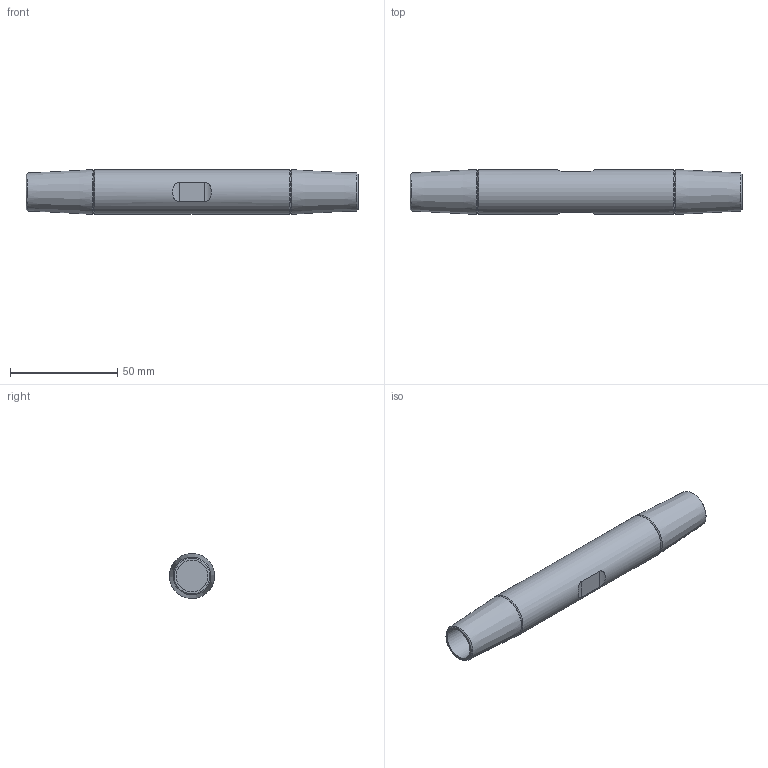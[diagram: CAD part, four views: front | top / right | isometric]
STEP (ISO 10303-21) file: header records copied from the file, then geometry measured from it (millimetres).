
FILE_DESCRIPTION(/* description */ (''),/* implementation_level */ '2;1');
FILE_NAME(/* name */ 'G:\Engineering\700 CAD\Internet-PX-1-step-igs-dxf\520-MUF-Arbeitsdateien\520-014-MUF.stp',/* time_stamp */ '2020-06-30T13:11:19+02:00',/* author */ ('schwarz'),/* organization */ (''),/* preprocessor_version */ 'ST-DEVELOPER v16.1',/* originating_system */ 'Autodesk Inventor 2016',/* authorisation */ '');
FILE_SCHEMA (('AUTOMOTIVE_DESIGN { 1 0 10303 214 3 1 1 }'));
Length unit declared in the file: centimetre
Products named in the file (1): Zusammenbau Muffe 520 014 Kunde
Bounding box: 155 x 21 x 21 mm (x, y, z)
Volume: 41770.9 mm3; surface area: 12686.6 mm2
Topology: 1 solids, 1 shells, 21 faces, 44 edges, 28 vertices
Faces by surface type: cone 8, cylinder 7, plane 6
Full cylindrical faces by diameter (mm): 14.8 x2, 21 x1
Entity records: 613 total; most frequent: CARTESIAN_POINT 166, DIRECTION 80, ORIENTED_EDGE 60, EDGE_LOOP 36, AXIS2_PLACEMENT_3D 36, EDGE_CURVE 30, VERTEX_POINT 26, STYLED_ITEM 22
